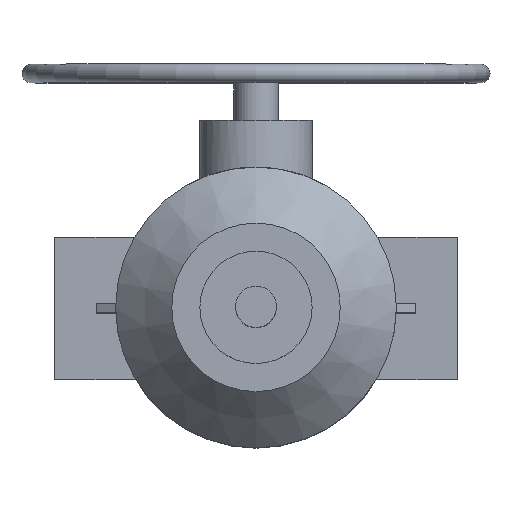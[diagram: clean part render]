
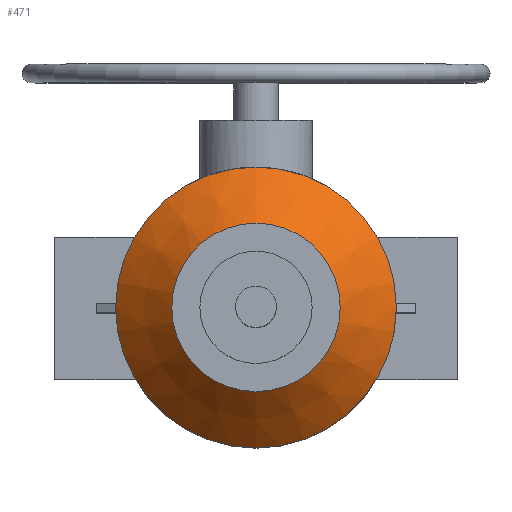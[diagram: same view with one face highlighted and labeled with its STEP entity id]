
A CAD part, top view. The second image highlights one B-rep face of the part: STEP entity #471.
In plain terms, the highlighted conical face has half-angle 45 degrees and reference radius 60 mm.
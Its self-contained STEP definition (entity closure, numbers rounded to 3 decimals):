
#471=ADVANCED_FACE('',(#1432,#1434),#1436,.T.);
#1432=FACE_BOUND('',#1433,.T.);
#1433=EDGE_LOOP('',(#2238,#2239));
#1434=FACE_OUTER_BOUND('',#1435,.T.);
#1435=EDGE_LOOP('',(#2240));
#1436=CONICAL_SURFACE('',#1437,60.,0.785);
#1437=AXIS2_PLACEMENT_3D('',#1438,#1439,#1440);
#1438=CARTESIAN_POINT('',(0.,0.,520.));
#1439=DIRECTION('',(0.,0.,-1.));
#1440=DIRECTION('',(0.,-1.,0.));
#2238=ORIENTED_EDGE('',*,*,#2622,.F.);
#2239=ORIENTED_EDGE('',*,*,#2621,.F.);
#2240=ORIENTED_EDGE('',*,*,#2619,.T.);
#2619=EDGE_CURVE('',#2955,#2955,#2956,.T.);
#2621=EDGE_CURVE('',#2957,#2959,#2960,.T.);
#2622=EDGE_CURVE('',#2959,#2957,#2961,.T.);
#2955=VERTEX_POINT('',#3614);
#2956=CIRCLE('',#3615,45.);
#2957=VERTEX_POINT('',#3619);
#2959=VERTEX_POINT('',#3783);
#2960=CIRCLE('',#3784,75.);
#2961=CIRCLE('',#3788,75.);
#3614=CARTESIAN_POINT('',(0.,-45.,535.));
#3615=AXIS2_PLACEMENT_3D('',#3616,#3617,#3618);
#3616=CARTESIAN_POINT('',(0.,0.,535.));
#3617=DIRECTION('',(0.,0.,-1.));
#3618=DIRECTION('',(0.,-1.,0.));
#3619=CARTESIAN_POINT('',(0.,75.,505.));
#3783=CARTESIAN_POINT('',(0.,-75.,505.));
#3784=AXIS2_PLACEMENT_3D('',#3785,#3786,#3787);
#3785=CARTESIAN_POINT('',(0.,0.,505.));
#3786=DIRECTION('',(0.,0.,-1.));
#3787=DIRECTION('',(0.,1.,0.));
#3788=AXIS2_PLACEMENT_3D('',#3789,#3790,#3791);
#3789=CARTESIAN_POINT('',(0.,0.,505.));
#3790=DIRECTION('',(0.,0.,-1.));
#3791=DIRECTION('',(0.,-1.,0.));
